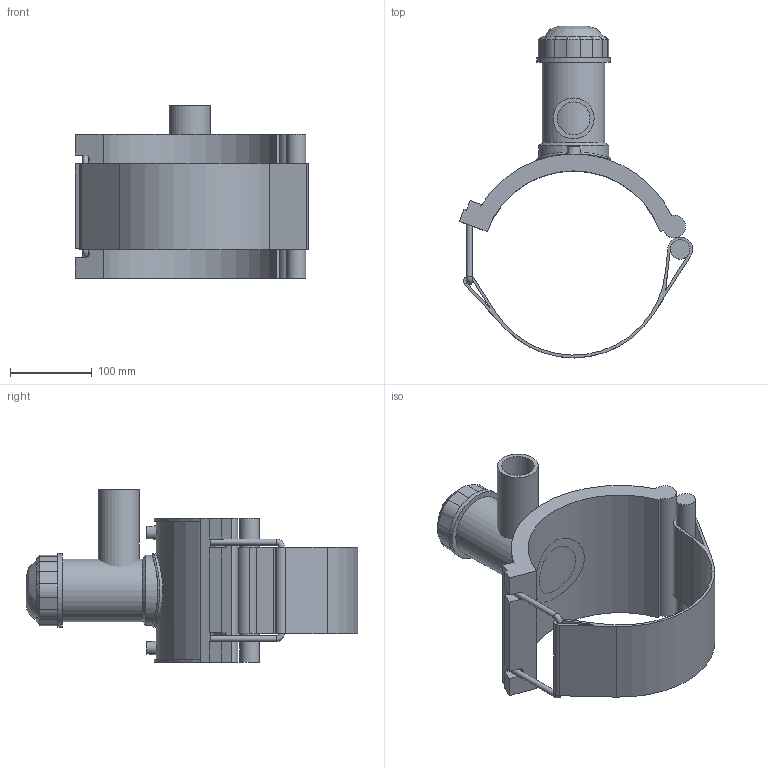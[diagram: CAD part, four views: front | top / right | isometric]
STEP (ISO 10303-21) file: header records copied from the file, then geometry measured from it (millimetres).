
FILE_DESCRIPTION(/* description */ (''),/* implementation_level */ '2;1');
FILE_NAME(/* name */ 'C:\Dropbox\KIMPROJECTS-Inventor 2019\99-16-3568-Processing\ElectroFusion Fittings\4963P4\stp\4963P4225050.stp',/* time_stamp */ '2022-03-17T11:32:39+02:00',/* author */ ('KIM'),/* organization */ (''),/* preprocessor_version */ 'ST-DEVELOPER v17.2',/* originating_system */ 'Autodesk Inventor 2019',/* authorisation */ '');
FILE_SCHEMA (('AUTOMOTIVE_DESIGN { 1 0 10303 214 3 1 1 }'));
Length unit declared in the file: millimetre
Products named in the file (1): 4963P4225050
Bounding box: 284.81 x 405.37 x 211 mm (x, y, z)
Volume: 1968539.7 mm3; surface area: 390695.6 mm2
Topology: 3 solids, 3 shells, 118 faces, 303 edges, 197 vertices
Faces by surface type: plane 65, cylinder 38, cone 11, torus 2, bspline 2
Full cylindrical faces by diameter (mm): 4 x2, 7.2 x2, 10 x2, 23.712 x1, 40 x1, 50 x1, 63 x1, 76.5 x1, 85.5 x1, 90 x2
Entity records: 4128 total; most frequent: CARTESIAN_POINT 1106, DIRECTION 639, ORIENTED_EDGE 608, EDGE_CURVE 304, AXIS2_PLACEMENT_3D 233, VERTEX_POINT 197, LINE 173, VECTOR 173
